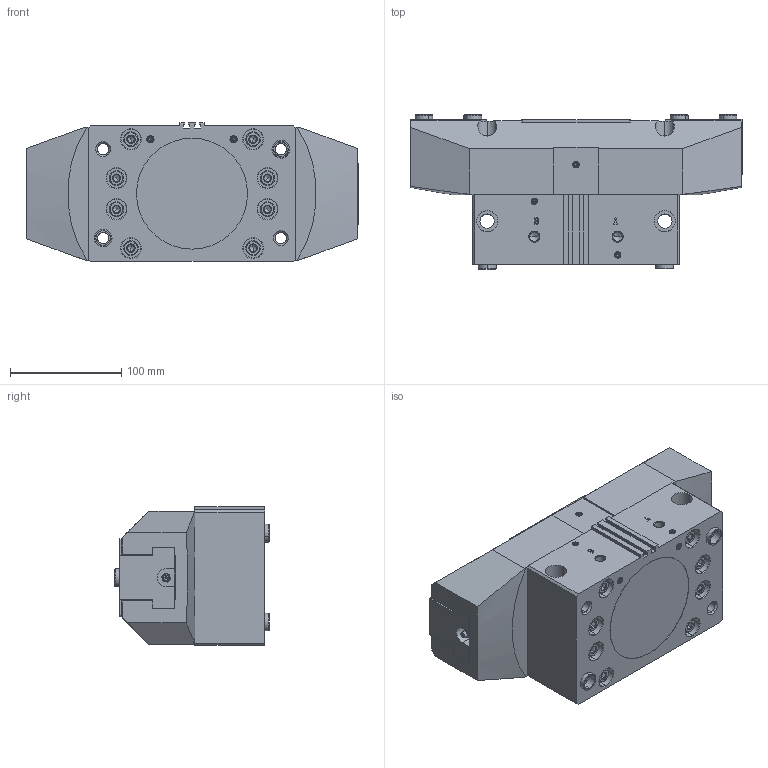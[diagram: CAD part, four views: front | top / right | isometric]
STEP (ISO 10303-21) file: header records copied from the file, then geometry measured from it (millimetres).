
FILE_DESCRIPTION (( 'STEP AP214' ), '1' );
FILE_NAME ('HP-NTS230-M-Assy-61G293459-20241126-UC.STEP', '2024-11-26T03:16:37', ( '' ), ( '' ), 'SwSTEP 2.0', 'SolidWorks 2022', '' );
FILE_SCHEMA (( 'AUTOMOTIVE_DESIGN' ));
Length unit declared in the file: millimetre
Products named in the file (11): HP-NTS230-M-Assy-61G293459-20241126-UC; BOLT^HP-NTS230-M; S-TOME1^HP-NTS230-M; COVER^HP-NTS230-M; MASTER JAW^HP-NTS230-M_グリスニップル仕様; REAR BODY^HP-NTS230-M; BUSH^HP-NTS230-M; S-TOME2^HP-NTS230-M; GREASE NIPPLE^HP-NTS230-M; BODY^HP-NTS230-M; S-SARA^HP-NTS230-M
Assembly tree (30 placements, depth 2):
  HP-NTS230-M-Assy-61G293459-20241126-UC
    BODY^HP-NTS230-M
    REAR BODY^HP-NTS230-M
    MASTER JAW^HP-NTS230-M_グリスニップル仕様  x2
    COVER^HP-NTS230-M
    BUSH^HP-NTS230-M  x6
    BOLT^HP-NTS230-M  x8
    S-TOME1^HP-NTS230-M  x3
    S-TOME2^HP-NTS230-M  x2
    S-SARA^HP-NTS230-M  x4
    GREASE NIPPLE^HP-NTS230-M  x2
Bounding box: 299 x 138.7 x 125 mm (x, y, z)
Volume: 3284880.2 mm3; surface area: 383112.5 mm2
Topology: 30 solids, 30 shells, 973 faces, 2315 edges, 1425 vertices
Faces by surface type: plane 383, cone 294, cylinder 248, torus 28, bspline 16, sphere 4
Entity records: 18132 total; most frequent: CARTESIAN_POINT 4397, DIRECTION 2694, ORIENTED_EDGE 2574, EDGE_CURVE 1287, AXIS2_PLACEMENT_3D 986, VERTEX_POINT 813, LINE 722, VECTOR 722
